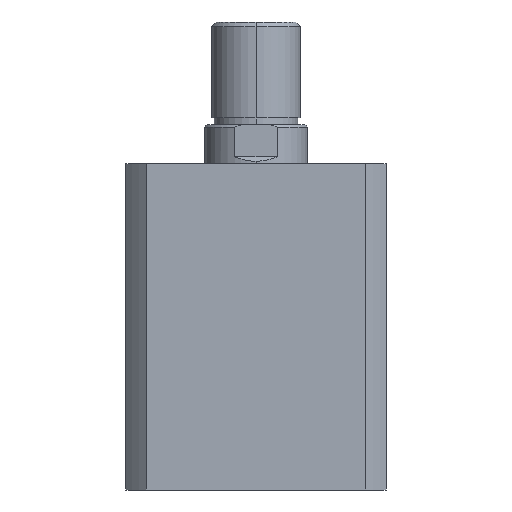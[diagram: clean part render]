
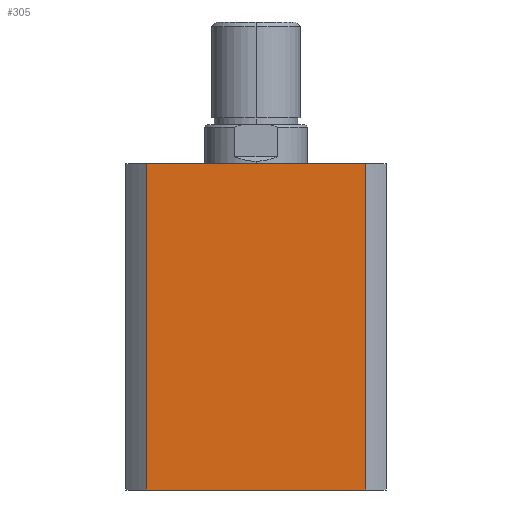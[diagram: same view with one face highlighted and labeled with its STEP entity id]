
A CAD part, left-side view. The second image highlights one B-rep face of the part: STEP entity #305.
In plain terms, the highlighted planar face has unit normal (-1, 0, 0).
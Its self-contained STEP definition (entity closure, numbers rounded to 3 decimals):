
#210 = ORIENTED_EDGE ( 'NONE', *, *, #633, .T. ) ;
#305 = ADVANCED_FACE ( 'NONE', ( #4743 ), #4045, .F. ) ;
#593 = EDGE_CURVE ( 'NONE', #1042, #1044, #4874, .T. ) ;
#628 = EDGE_CURVE ( 'NONE', #1002, #1129, #4913, .T. ) ;
#630 = EDGE_CURVE ( 'NONE', #1129, #1044, #4919, .T. ) ;
#633 = EDGE_CURVE ( 'NONE', #1002, #1042, #4917, .T. ) ;
#1002 = VERTEX_POINT ( 'NONE', #5144 ) ;
#1042 = VERTEX_POINT ( 'NONE', #5100 ) ;
#1044 = VERTEX_POINT ( 'NONE', #5097 ) ;
#1129 = VERTEX_POINT ( 'NONE', #5007 ) ;
#2118 = EDGE_LOOP ( 'NONE', ( #2258, #2257, #4993, #210 ) ) ;
#2257 = ORIENTED_EDGE ( 'NONE', *, *, #630, .F. ) ;
#2258 = ORIENTED_EDGE ( 'NONE', *, *, #593, .T. ) ;
#2383 = AXIS2_PLACEMENT_3D ( 'NONE', #4047, #4042, #4041 ) ;
#3198 = CARTESIAN_POINT ( 'NONE',  ( -57., 47.971, 143. ) ) ;
#3204 = DIRECTION ( 'NONE',  ( 0., 0., -1. ) ) ;
#3212 = CARTESIAN_POINT ( 'NONE',  ( -57., -47.971, 143. ) ) ;
#3216 = CARTESIAN_POINT ( 'NONE',  ( -57., 0., 143. ) ) ;
#3217 = DIRECTION ( 'NONE',  ( 0., 0., -1. ) ) ;
#3232 = DIRECTION ( 'NONE',  ( 0., -1., 0. ) ) ;
#3689 = DIRECTION ( 'NONE',  ( 0., -1., 0. ) ) ;
#3692 = CARTESIAN_POINT ( 'NONE',  ( -57., 0., 0. ) ) ;
#4041 = DIRECTION ( 'NONE',  ( 0., 0., -1. ) ) ;
#4042 = DIRECTION ( 'NONE',  ( 1., 0., 0. ) ) ;
#4045 = PLANE ( 'NONE',  #2383 ) ;
#4047 = CARTESIAN_POINT ( 'NONE',  ( -57., 0., 143. ) ) ;
#4743 = FACE_OUTER_BOUND ( 'NONE', #2118, .T. ) ;
#4873 = VECTOR ( 'NONE', #3689, 1000. ) ;
#4874 = LINE ( 'NONE', #3692, #4873 ) ;
#4913 = LINE ( 'NONE', #3216, #4918 ) ;
#4917 = LINE ( 'NONE', #3198, #4925 ) ;
#4918 = VECTOR ( 'NONE', #3232, 1000. ) ;
#4919 = LINE ( 'NONE', #3212, #4921 ) ;
#4921 = VECTOR ( 'NONE', #3217, 1000. ) ;
#4925 = VECTOR ( 'NONE', #3204, 1000. ) ;
#4993 = ORIENTED_EDGE ( 'NONE', *, *, #628, .F. ) ;
#5007 = CARTESIAN_POINT ( 'NONE',  ( -57., -47.971, 143. ) ) ;
#5097 = CARTESIAN_POINT ( 'NONE',  ( -57., -47.971, 0. ) ) ;
#5100 = CARTESIAN_POINT ( 'NONE',  ( -57., 47.971, 0. ) ) ;
#5144 = CARTESIAN_POINT ( 'NONE',  ( -57., 47.971, 143. ) ) ;
